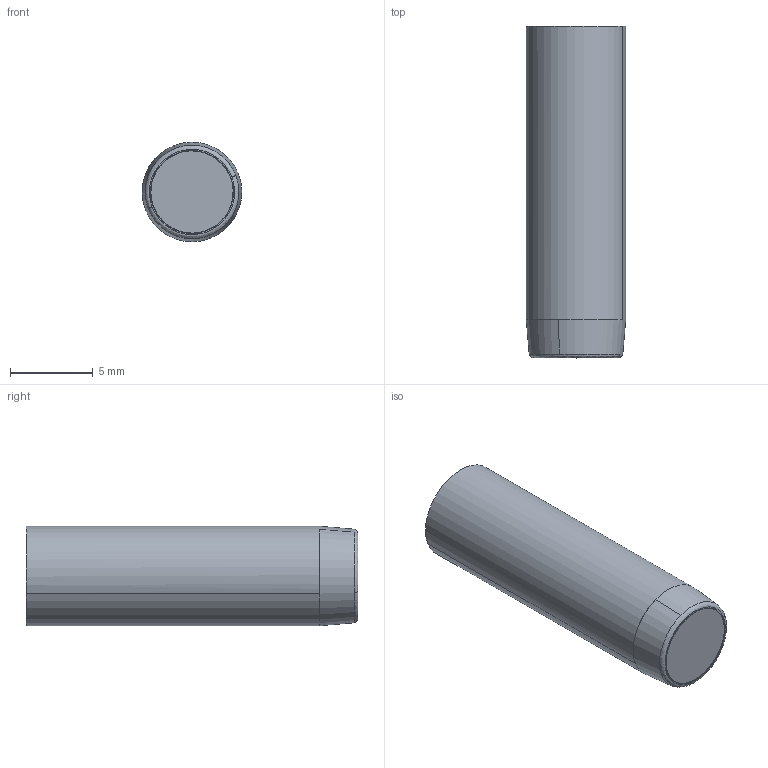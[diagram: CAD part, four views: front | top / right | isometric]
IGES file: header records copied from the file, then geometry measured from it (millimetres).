
Start section: START RECORD GO HERE.
Global section: file name: fa063205-21.igs; native system: DASSAULT SYSTEMES CATIA V5 R20 - www.3ds.com; preprocessor: CATIA Version 5 Release 20 ; author: Utente; organization: NB04-ASUS; date: 20201108.083842; units: millimetre
Bounding box: 6 x 20 x 6 mm (x, y, z)
Surface area: 1124.6 mm2 (no closed solid volume)
Topology: 0 solids, 0 shells, 320 faces, 1538 edges, 1536 vertices
Faces by surface type: bspline 161, plane 95, revolution 64
